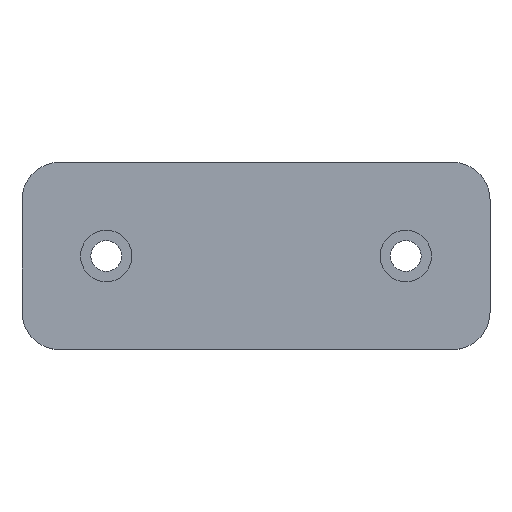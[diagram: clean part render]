
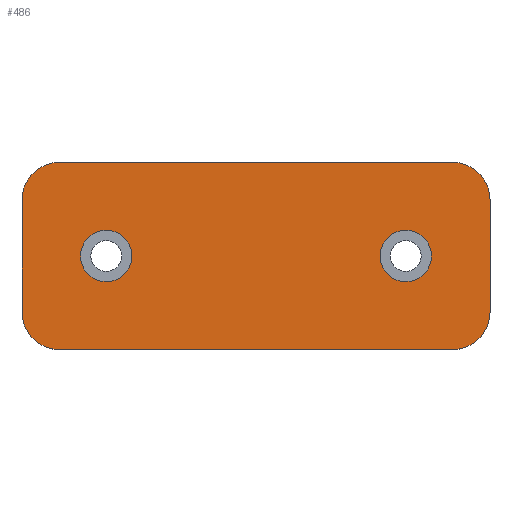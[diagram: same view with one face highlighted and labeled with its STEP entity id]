
A CAD part, top view. The second image highlights one B-rep face of the part: STEP entity #486.
In plain terms, the highlighted planar face has unit normal (0, 0, 1).
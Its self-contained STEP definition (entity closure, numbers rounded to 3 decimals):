
#19 = CARTESIAN_POINT ( 'NONE',  ( 42., -20., 10.1 ) ) ;
#23 = AXIS2_PLACEMENT_3D ( 'NONE', #823, #826, #238 ) ;
#28 = EDGE_CURVE ( 'NONE', #834, #268, #622, .T. ) ;
#54 = CIRCLE ( 'NONE', #769, 8. ) ;
#67 = CIRCLE ( 'NONE', #517, 8. ) ;
#77 = ORIENTED_EDGE ( 'NONE', *, *, #600, .T. ) ;
#99 = ORIENTED_EDGE ( 'NONE', *, *, #533, .T. ) ;
#101 = DIRECTION ( 'NONE',  ( 1., 0., 0. ) ) ;
#104 = ORIENTED_EDGE ( 'NONE', *, *, #591, .F. ) ;
#106 = VERTEX_POINT ( 'NONE', #647 ) ;
#107 = DIRECTION ( 'NONE',  ( 0., 0., 1. ) ) ;
#113 = LINE ( 'NONE', #778, #305 ) ;
#119 = DIRECTION ( 'NONE',  ( 0., -1., 0. ) ) ;
#120 = VECTOR ( 'NONE', #408, 1000. ) ;
#122 = CIRCLE ( 'NONE', #23, 5.5 ) ;
#128 = DIRECTION ( 'NONE',  ( 0., 0., 1. ) ) ;
#137 = CARTESIAN_POINT ( 'NONE',  ( -42., -12., 10.1 ) ) ;
#144 = ORIENTED_EDGE ( 'NONE', *, *, #491, .T. ) ;
#146 = DIRECTION ( 'NONE',  ( 1., 0., 0. ) ) ;
#171 = CARTESIAN_POINT ( 'NONE',  ( 50., -12., 10.1 ) ) ;
#184 = VECTOR ( 'NONE', #146, 1000. ) ;
#186 = VERTEX_POINT ( 'NONE', #516 ) ;
#192 = VERTEX_POINT ( 'NONE', #194 ) ;
#194 = CARTESIAN_POINT ( 'NONE',  ( 50., -12., 10.1 ) ) ;
#204 = AXIS2_PLACEMENT_3D ( 'NONE', #490, #107, #101 ) ;
#205 = CIRCLE ( 'NONE', #361, 5.5 ) ;
#211 = DIRECTION ( 'NONE',  ( 1., 0., 0. ) ) ;
#215 = EDGE_CURVE ( 'NONE', #645, #573, #281, .T. ) ;
#236 = DIRECTION ( 'NONE',  ( 1., 0., 0. ) ) ;
#238 = DIRECTION ( 'NONE',  ( 1., 0., 0. ) ) ;
#243 = CIRCLE ( 'NONE', #434, 8. ) ;
#261 = VECTOR ( 'NONE', #814, 1000. ) ;
#265 = DIRECTION ( 'NONE',  ( 0., 0., 1. ) ) ;
#268 = VERTEX_POINT ( 'NONE', #339 ) ;
#281 = LINE ( 'NONE', #19, #184 ) ;
#287 = CARTESIAN_POINT ( 'NONE',  ( 42., 20., 10.1 ) ) ;
#290 = EDGE_LOOP ( 'NONE', ( #481, #674 ) ) ;
#295 = DIRECTION ( 'NONE',  ( 0., 0., 1. ) ) ;
#305 = VECTOR ( 'NONE', #119, 1000. ) ;
#324 = CARTESIAN_POINT ( 'NONE',  ( 42., -12., 10.1 ) ) ;
#325 = EDGE_CURVE ( 'NONE', #832, #106, #543, .T. ) ;
#338 = DIRECTION ( 'NONE',  ( 1., 0., 0. ) ) ;
#339 = CARTESIAN_POINT ( 'NONE',  ( 26.5, 0., 10.1 ) ) ;
#356 = CIRCLE ( 'NONE', #825, 8. ) ;
#359 = EDGE_CURVE ( 'NONE', #544, #832, #54, .T. ) ;
#361 = AXIS2_PLACEMENT_3D ( 'NONE', #757, #295, #236 ) ;
#362 = DIRECTION ( 'NONE',  ( 1., 0., 0. ) ) ;
#372 = ORIENTED_EDGE ( 'NONE', *, *, #359, .T. ) ;
#378 = CARTESIAN_POINT ( 'NONE',  ( 42., -20., 10.1 ) ) ;
#392 = CARTESIAN_POINT ( 'NONE',  ( 42., 12., 10.1 ) ) ;
#404 = EDGE_CURVE ( 'NONE', #568, #186, #205, .T. ) ;
#408 = DIRECTION ( 'NONE',  ( 0., 1., 0. ) ) ;
#414 = CARTESIAN_POINT ( 'NONE',  ( 42., 12., 10.1 ) ) ;
#416 = EDGE_CURVE ( 'NONE', #186, #568, #122, .T. ) ;
#421 = DIRECTION ( 'NONE',  ( 0., 0., 1. ) ) ;
#434 = AXIS2_PLACEMENT_3D ( 'NONE', #324, #586, #211 ) ;
#443 = FACE_BOUND ( 'NONE', #455, .T. ) ;
#448 = CARTESIAN_POINT ( 'NONE',  ( 50., 12., 10.1 ) ) ;
#453 = EDGE_LOOP ( 'NONE', ( #372, #682, #555, #144, #745, #754, #99, #77 ) ) ;
#455 = EDGE_LOOP ( 'NONE', ( #621, #104 ) ) ;
#481 = ORIENTED_EDGE ( 'NONE', *, *, #404, .F. ) ;
#486 = ADVANCED_FACE ( 'NONE', ( #443, #585, #608 ), #624, .T. ) ;
#490 = CARTESIAN_POINT ( 'NONE',  ( 32., 0., 10.1 ) ) ;
#491 = EDGE_CURVE ( 'NONE', #564, #519, #113, .T. ) ;
#501 = CARTESIAN_POINT ( 'NONE',  ( -50., -12., 10.1 ) ) ;
#516 = CARTESIAN_POINT ( 'NONE',  ( -37.5, 0., 10.1 ) ) ;
#517 = AXIS2_PLACEMENT_3D ( 'NONE', #836, #421, #703 ) ;
#519 = VERTEX_POINT ( 'NONE', #501 ) ;
#522 = DIRECTION ( 'NONE',  ( -1., 0., 0. ) ) ;
#528 = EDGE_CURVE ( 'NONE', #519, #645, #356, .T. ) ;
#533 = EDGE_CURVE ( 'NONE', #573, #192, #243, .T. ) ;
#541 = CIRCLE ( 'NONE', #204, 5.5 ) ;
#543 = LINE ( 'NONE', #287, #261 ) ;
#544 = VERTEX_POINT ( 'NONE', #448 ) ;
#555 = ORIENTED_EDGE ( 'NONE', *, *, #720, .T. ) ;
#564 = VERTEX_POINT ( 'NONE', #728 ) ;
#568 = VERTEX_POINT ( 'NONE', #794 ) ;
#573 = VERTEX_POINT ( 'NONE', #378 ) ;
#580 = CARTESIAN_POINT ( 'NONE',  ( 37.5, 0., 10.1 ) ) ;
#585 = FACE_BOUND ( 'NONE', #290, .T. ) ;
#586 = DIRECTION ( 'NONE',  ( 0., 0., 1. ) ) ;
#591 = EDGE_CURVE ( 'NONE', #268, #834, #541, .T. ) ;
#600 = EDGE_CURVE ( 'NONE', #192, #544, #830, .T. ) ;
#608 = FACE_OUTER_BOUND ( 'NONE', #453, .T. ) ;
#621 = ORIENTED_EDGE ( 'NONE', *, *, #28, .F. ) ;
#622 = CIRCLE ( 'NONE', #705, 5.5 ) ;
#624 = PLANE ( 'NONE',  #730 ) ;
#641 = DIRECTION ( 'NONE',  ( 1., 0., 0. ) ) ;
#645 = VERTEX_POINT ( 'NONE', #822 ) ;
#647 = CARTESIAN_POINT ( 'NONE',  ( -42., 20., 10.1 ) ) ;
#667 = DIRECTION ( 'NONE',  ( 0., 0., 1. ) ) ;
#674 = ORIENTED_EDGE ( 'NONE', *, *, #416, .F. ) ;
#682 = ORIENTED_EDGE ( 'NONE', *, *, #325, .T. ) ;
#698 = DIRECTION ( 'NONE',  ( 0., 0., 1. ) ) ;
#703 = DIRECTION ( 'NONE',  ( 1., 0., 0. ) ) ;
#705 = AXIS2_PLACEMENT_3D ( 'NONE', #786, #128, #641 ) ;
#720 = EDGE_CURVE ( 'NONE', #106, #564, #67, .T. ) ;
#728 = CARTESIAN_POINT ( 'NONE',  ( -50., 12., 10.1 ) ) ;
#730 = AXIS2_PLACEMENT_3D ( 'NONE', #414, #698, #362 ) ;
#745 = ORIENTED_EDGE ( 'NONE', *, *, #528, .T. ) ;
#754 = ORIENTED_EDGE ( 'NONE', *, *, #215, .T. ) ;
#757 = CARTESIAN_POINT ( 'NONE',  ( -32., 0., 10.1 ) ) ;
#769 = AXIS2_PLACEMENT_3D ( 'NONE', #392, #667, #338 ) ;
#778 = CARTESIAN_POINT ( 'NONE',  ( -50., -12., 10.1 ) ) ;
#786 = CARTESIAN_POINT ( 'NONE',  ( 32., 0., 10.1 ) ) ;
#794 = CARTESIAN_POINT ( 'NONE',  ( -26.5, 0., 10.1 ) ) ;
#814 = DIRECTION ( 'NONE',  ( -1., 0., 0. ) ) ;
#822 = CARTESIAN_POINT ( 'NONE',  ( -42., -20., 10.1 ) ) ;
#823 = CARTESIAN_POINT ( 'NONE',  ( -32., 0., 10.1 ) ) ;
#825 = AXIS2_PLACEMENT_3D ( 'NONE', #137, #265, #522 ) ;
#826 = DIRECTION ( 'NONE',  ( 0., 0., 1. ) ) ;
#830 = LINE ( 'NONE', #171, #120 ) ;
#832 = VERTEX_POINT ( 'NONE', #844 ) ;
#834 = VERTEX_POINT ( 'NONE', #580 ) ;
#836 = CARTESIAN_POINT ( 'NONE',  ( -42., 12., 10.1 ) ) ;
#844 = CARTESIAN_POINT ( 'NONE',  ( 42., 20., 10.1 ) ) ;
